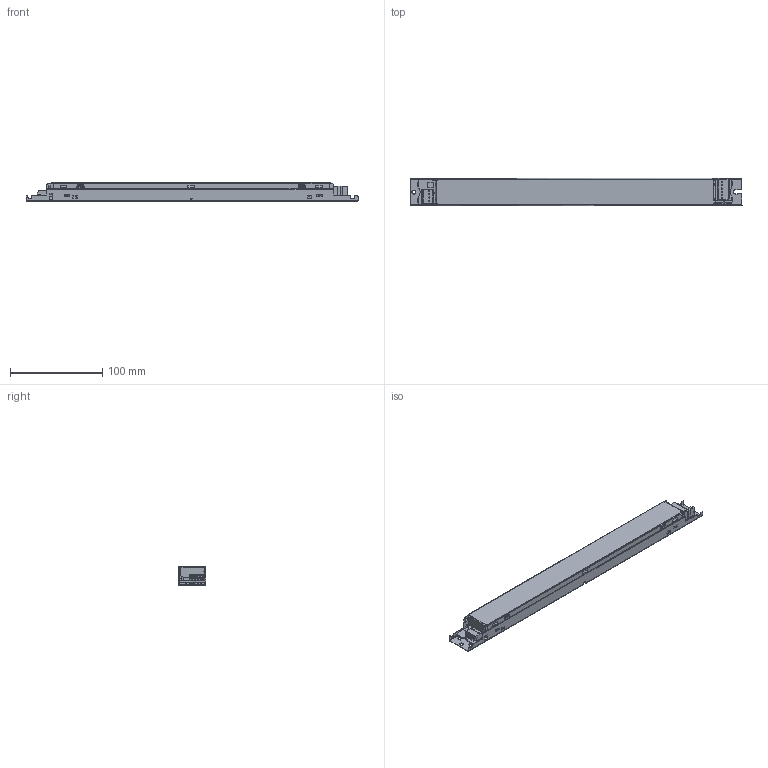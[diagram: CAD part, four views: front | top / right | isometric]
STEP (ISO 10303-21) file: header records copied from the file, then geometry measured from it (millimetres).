
FILE_DESCRIPTION(/* description */ (''),/* implementation_level */ '2;1');
FILE_NAME(/* name */ 'C:\Users\310079203\Desktop\360mm-assmbly-20151005.stp',/* time_stamp */ '2016-03-03T16:45:23+08:00',/* author */ ('310079203'),/* organization */ (''),/* preprocessor_version */ 'ST-DEVELOPER v15.2',/* originating_system */ 'Autodesk Inventor 2014',/* authorisation */ '');
FILE_SCHEMA (('AUTOMOTIVE_DESIGN { 1 0 10303 214 3 1 1 }'));
Products named in the file (1): 360mm-assmbly-20151005
Bounding box: 360.04 x 29.86 x 20.6 mm (x, y, z)
Volume: 146699.7 mm3; surface area: 104598.5 mm2
Topology: 1 solids, 229 shells, 2359 faces, 5239 edges, 3307 vertices
Faces by surface type: plane 1307, cylinder 771, bspline 141, torus 85, cone 32, sphere 23
Full cylindrical faces by diameter (mm): 0.3 x68, 0.45 x101, 0.9 x6, 1 x10, 1.1 x25, 1.2 x18, 1.3 x18, 1.35 x2, 1.6 x4, 2.5 x12, 3 x11
Entity records: 70798 total; most frequent: CARTESIAN_POINT 17102, DIRECTION 10880, ORIENTED_EDGE 9684, EDGE_CURVE 4842, AXIS2_PLACEMENT_3D 4034, VERTEX_POINT 3252, LINE 2812, VECTOR 2812
